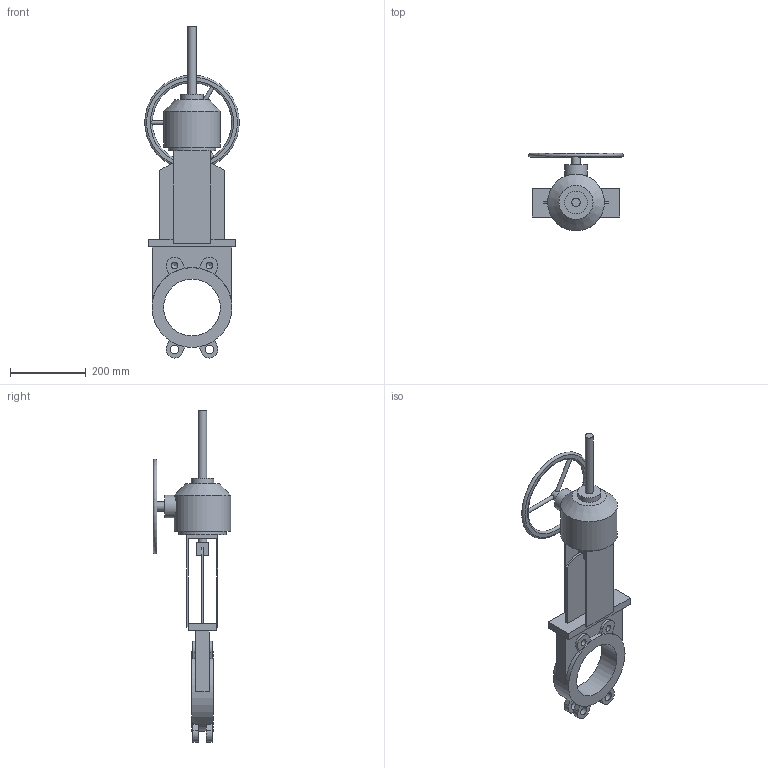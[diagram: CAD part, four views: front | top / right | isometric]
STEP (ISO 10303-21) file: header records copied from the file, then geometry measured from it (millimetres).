
FILE_DESCRIPTION(('STEP AP203'), '1');
FILE_NAME('Çàäâèæêà øèáåðíàÿ K21GV DN150 ðåäóêòîð+âûäâèæíîé øïèíäåëü', '', ('UNSPECIFIED'), ('UNSPECIFIED'), 'ASCON STEP Converter 1.6', 'ASCON Math Kernel', '');
FILE_SCHEMA(('CONFIG_CONTROL_DESIGN'));
Length unit declared in the file: millimetre
Bounding box: 250 x 205 x 877.34 mm (x, y, z)
Volume: 4959413.4 mm3; surface area: 520684.1 mm2
Topology: 1 solids, 1 shells, 117 faces, 302 edges, 191 vertices
Faces by surface type: plane 80, cylinder 28, cone 5, torus 4
Full cylindrical faces by diameter (mm): 10 x3, 17.294 x4, 22 x2, 23 x4, 24 x1, 60 x2, 125 x1, 150 x2, 211 x1
Entity records: 5728 total; most frequent: CARTESIAN_POINT 1952, DIRECTION 584, ORIENTED_EDGE 542, EDGE_CURVE 271, AXIS2_PLACEMENT_3D 208, VERTEX_POINT 187, EDGE_LOOP 168, LINE 168
